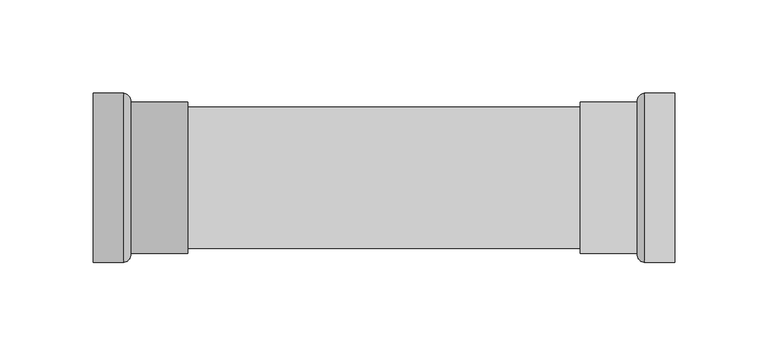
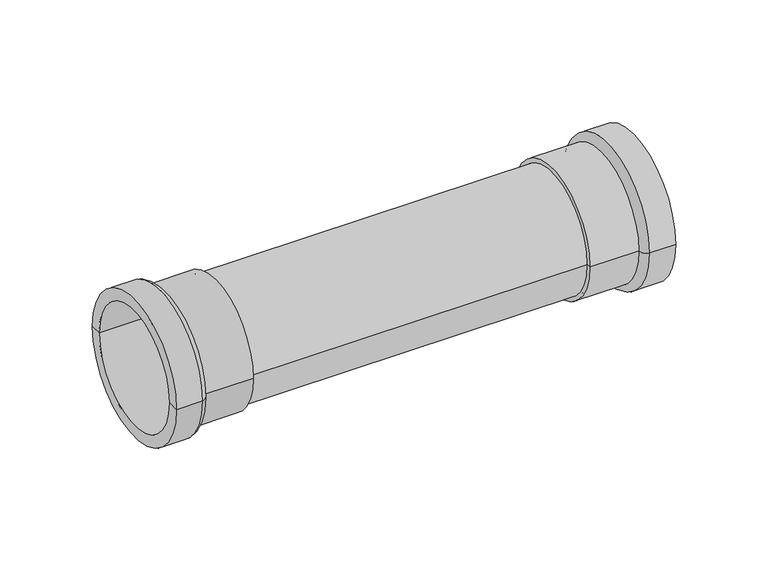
"""IFC4 building model written with IfcOpenShell, lengths in millimetres: pipe fitting geometry, VALTEC_VTi.903.I_Соединитель прямой нержавеющая сталь : VTi.903.I."""

from ifc_helpers import new_model, si_unit, point, frame, origin, origin_2d, place, context, project, spatial, polyline, circle_curve, ellipse_curve, trimmed, segment, composite_curve, outline, extrude, source, transform, mapped, element, save
from ifc_brep_helpers import plane_surface, cylinder_surface, revolved_surface, advanced_brep


def pipe_fitting_39a1b7c8(model_context):
    return source(origin(), model_context, "Body", "SolidModel", [
        advanced_brep(
        [(0.0, -38.05, 0.0), (0.0, 38.05, 0.0), (0.0, 45.5, 0.0), (0.0, -45.5, 0.0), (50.81, -38.05, 0.0), (50.81, 38.05, 0.0), (50.81, -40.75, 0.0), (50.81, 40.75, 0.0), (20.25, -40.75, 0.0), (20.25, 40.75, 0.0), (16.4, -45.5, 0.0), (16.4, 45.5, 0.0)],
        [
            (0, 1, circle_curve(frame((0.0, 0.0, 0.0), z_axis=(1.0, 0.0, 0.0), x_axis=(0.0, 1.0, 0.0)), 38.05)),
            (1, 2),
            (2, 3, circle_curve(frame((0.0, 0.0, 0.0), z_axis=(-1.0, 0.0, 0.0), x_axis=(0.0, 1.0, 0.0)), 45.5)),
            (3, 0),
            (1, 0, circle_curve(frame((0.0, 0.0, 0.0), z_axis=(1.0, 0.0, 0.0), x_axis=(0.0, 1.0, 0.0)), 38.05)),
            (3, 2, circle_curve(frame((0.0, 0.0, 0.0), z_axis=(-1.0, 0.0, 0.0), x_axis=(0.0, 1.0, 0.0)), 45.5)),
            (4, 5, circle_curve(frame((50.81, 0.0, 0.0), z_axis=(1.0, 0.0, 0.0), x_axis=(0.0, 1.0, 0.0)), 38.05)),
            (5, 1),
            (0, 4),
            (5, 4, circle_curve(frame((50.81, 0.0, 0.0), z_axis=(1.0, 0.0, 0.0), x_axis=(0.0, 1.0, 0.0)), 38.05)),
            (6, 7, circle_curve(frame((50.81, 0.0, 0.0), z_axis=(1.0, 0.0, 0.0), x_axis=(0.0, 1.0, 0.0)), 40.75)),
            (7, 5),
            (4, 6),
            (7, 6, circle_curve(frame((50.81, 0.0, 0.0), z_axis=(1.0, 0.0, 0.0), x_axis=(0.0, 1.0, 0.0)), 40.75)),
            (8, 9, circle_curve(frame((20.25, 0.0, 0.0), z_axis=(1.0, 0.0, 0.0), x_axis=(0.0, 1.0, 0.0)), 40.75)),
            (9, 7),
            (6, 8),
            (9, 8, circle_curve(frame((20.25, 0.0, 0.0), z_axis=(1.0, 0.0, 0.0), x_axis=(0.0, 1.0, 0.0)), 40.75)),
            (10, 11, circle_curve(frame((16.4, 0.0, 0.0), z_axis=(1.0, 0.0, 0.0), x_axis=(0.0, 1.0, 0.0)), 45.5)),
            (11, 9, circle_curve(frame((15.5334127, 40.862345, 0.0), z_axis=(0.0, 0.0, -1.0), x_axis=(1.0, 0.0, 0.0)), 4.7179251)),
            (8, 10, circle_curve(frame((15.5334127, -40.862345, 0.0), z_axis=(0.0, 0.0, -1.0), x_axis=(1.0, 0.0, 0.0)), 4.7179251)),
            (11, 10, circle_curve(frame((16.4, 0.0, 0.0), z_axis=(1.0, 0.0, 0.0), x_axis=(0.0, 1.0, 0.0)), 45.5)),
            (2, 11),
            (10, 3),
        ],
        [
            plane_surface(frame((0.0, 0.0, 0.0), z_axis=(-1.0, 0.0, 0.0), x_axis=(0.0, 1.0, 0.0))),
            revolved_surface(polyline([(0.0, 38.05, 0.0), (50.81, 38.05, 0.0)]), (29.8493608, 0.0, 0.0), (-1.0, 0.0, 0.0)),
            plane_surface(frame((50.81, 0.0, 0.0), z_axis=(1.0, 0.0, 0.0), x_axis=(0.0, 1.0, 0.0))),
            cylinder_surface(frame((29.8493608, 0.0, 0.0), z_axis=(-1.0, 0.0, 0.0), x_axis=(0.0, 1.0, 0.0)), 40.75),
            revolved_surface(trimmed(ellipse_curve(frame((15.5334127, 40.862345, 0.0), z_axis=(0.0, 0.0, 1.0), x_axis=(1.0, 0.0, 0.0)), 4.7179251, 4.7179251), [point((20.25, 40.75, 0.0))], [point((16.4, 45.5, 0.0))], True, "CARTESIAN"), (29.8493608, 0.0, 0.0), (-1.0, 0.0, 0.0)),
            cylinder_surface(frame((29.8493608, 0.0, 0.0), z_axis=(-1.0, 0.0, 0.0), x_axis=(0.0, 1.0, 0.0)), 45.5),
        ],
        [
            (0, [[1, 2, 3, 4]]),
            (0, [[5, -4, 6, -2]]),
            (1, [[7, 8, -1, 9]]),
            (1, [[10, -9, -5, -8]]),
            (2, [[11, 12, -7, 13]]),
            (2, [[14, -13, -10, -12]]),
            (3, [[15, 16, -11, 17]]),
            (3, [[18, -17, -14, -16]]),
            (4, [[19, 20, -15, 21]]),
            (4, [[22, -21, -18, -20]]),
            (5, [[-3, 23, -19, 24]]),
            (5, [[-6, -24, -22, -23]]),
        ],
    ),
        advanced_brep(
        [(312.0, 38.05, 0.0), (312.0, -38.05, 0.0), (312.0, -45.5, 0.0), (312.0, 45.5, 0.0), (261.19, 38.05, 0.0), (261.19, -38.05, 0.0), (261.19, 40.75, 0.0), (261.19, -40.75, 0.0), (291.75, 40.75, 0.0), (291.75, -40.75, 0.0), (295.6, 45.5, 0.0), (295.6, -45.5, 0.0)],
        [
            (0, 1, circle_curve(frame((312.0, 0.0, 0.0), z_axis=(-1.0, 0.0, 0.0), x_axis=(0.0, -1.0, 0.0)), 38.05)),
            (1, 2),
            (2, 3, circle_curve(frame((312.0, 0.0, 0.0), z_axis=(1.0, 0.0, 0.0), x_axis=(0.0, -1.0, 0.0)), 45.5)),
            (3, 0),
            (1, 0, circle_curve(frame((312.0, 0.0, 0.0), z_axis=(-1.0, 0.0, 0.0), x_axis=(0.0, -1.0, 0.0)), 38.05)),
            (3, 2, circle_curve(frame((312.0, 0.0, 0.0), z_axis=(1.0, 0.0, 0.0), x_axis=(0.0, -1.0, 0.0)), 45.5)),
            (4, 5, circle_curve(frame((261.19, 0.0, 0.0), z_axis=(-1.0, 0.0, 0.0), x_axis=(0.0, -1.0, 0.0)), 38.05)),
            (5, 1),
            (0, 4),
            (5, 4, circle_curve(frame((261.19, 0.0, 0.0), z_axis=(-1.0, 0.0, 0.0), x_axis=(0.0, -1.0, 0.0)), 38.05)),
            (6, 7, circle_curve(frame((261.19, 0.0, 0.0), z_axis=(-1.0, 0.0, 0.0), x_axis=(0.0, -1.0, 0.0)), 40.75)),
            (7, 5),
            (4, 6),
            (7, 6, circle_curve(frame((261.19, 0.0, 0.0), z_axis=(-1.0, 0.0, 0.0), x_axis=(0.0, -1.0, 0.0)), 40.75)),
            (8, 9, circle_curve(frame((291.75, 0.0, 0.0), z_axis=(-1.0, 0.0, 0.0), x_axis=(0.0, -1.0, 0.0)), 40.75)),
            (9, 7),
            (6, 8),
            (9, 8, circle_curve(frame((291.75, 0.0, 0.0), z_axis=(-1.0, 0.0, 0.0), x_axis=(0.0, -1.0, 0.0)), 40.75)),
            (10, 11, circle_curve(frame((295.6, 0.0, 0.0), z_axis=(-1.0, 0.0, 0.0), x_axis=(0.0, -1.0, 0.0)), 45.5)),
            (11, 9, circle_curve(frame((296.4665873, -40.862345, 0.0), z_axis=(0.0, 0.0, -1.0), x_axis=(-1.0, 0.0, 0.0)), 4.7179251)),
            (8, 10, circle_curve(frame((296.4665873, 40.862345, 0.0), z_axis=(0.0, 0.0, -1.0), x_axis=(-1.0, 0.0, 0.0)), 4.7179251)),
            (11, 10, circle_curve(frame((295.6, 0.0, 0.0), z_axis=(-1.0, 0.0, 0.0), x_axis=(0.0, -1.0, 0.0)), 45.5)),
            (2, 11),
            (10, 3),
        ],
        [
            plane_surface(frame((312.0, 0.0, 0.0), z_axis=(1.0, 0.0, 0.0), x_axis=(0.0, -1.0, 0.0))),
            revolved_surface(polyline([(312.0, -38.05, 0.0), (261.19, -38.05, 0.0)]), (282.1506392, 0.0, 0.0), (1.0, 0.0, 0.0)),
            plane_surface(frame((261.19, 0.0, 0.0), z_axis=(-1.0, 0.0, 0.0), x_axis=(0.0, -1.0, 0.0))),
            cylinder_surface(frame((282.1506392, 0.0, 0.0), z_axis=(1.0, 0.0, 0.0), x_axis=(0.0, -1.0, 0.0)), 40.75),
            revolved_surface(trimmed(ellipse_curve(frame((296.4665873, -40.862345, 0.0), z_axis=(0.0, 0.0, 1.0), x_axis=(-1.0, 0.0, 0.0)), 4.7179251, 4.7179251), [point((291.75, -40.75, 0.0))], [point((295.6, -45.5, 0.0))], True, "CARTESIAN"), (282.1506392, 0.0, 0.0), (1.0, 0.0, 0.0)),
            cylinder_surface(frame((282.1506392, 0.0, 0.0), z_axis=(1.0, 0.0, 0.0), x_axis=(0.0, -1.0, 0.0)), 45.5),
        ],
        [
            (0, [[1, 2, 3, 4]]),
            (0, [[5, -4, 6, -2]]),
            (1, [[7, 8, -1, 9]]),
            (1, [[10, -9, -5, -8]]),
            (2, [[11, 12, -7, 13]]),
            (2, [[14, -13, -10, -12]]),
            (3, [[15, 16, -11, 17]]),
            (3, [[18, -17, -14, -16]]),
            (4, [[19, 20, -15, 21]]),
            (4, [[22, -21, -18, -20]]),
            (5, [[-3, 23, -19, 24]]),
            (5, [[-6, -24, -22, -23]]),
        ],
    ),
        extrude(outline(composite_curve([segment(trimmed(circle_curve(origin_2d(), 38.05), [point((-38.05, 0.0))], [point((38.05, 0.0))], False, "CARTESIAN"), True, "CONTINUOUS"), segment(trimmed(circle_curve(origin_2d(), 38.05), [point((38.05, 0.0))], [point((-38.05, 0.0))], False, "CARTESIAN"), True, "CONTINUOUS")], self_intersect=False)), frame((46.8, 0.0, 0.0), z_axis=(1.0, 0.0, 0.0), x_axis=(0.0, 1.0, 0.0)), (0.0, 0.0, 1.0), 218.4),
    ])


if __name__ == "__main__":
    model = new_model("IFC4")
    model_context = context("Model", 3, world=origin())
    ifc_project = project(units=[si_unit("LENGTHUNIT", "METRE", prefix="MILLI")], contexts=[model_context])
    site = spatial("IfcSite", under=ifc_project)
    building = spatial("IfcBuilding", under=site)
    placement = place(None, origin())
    pipe_fitting_shape = pipe_fitting_39a1b7c8(model_context)
    element("IfcPipeFitting", 1, ObjectType="VALTEC_VTi.903.I_Соединитель прямой нержавеющая сталь : VTi.903.I", at=placement, inside=building, context=model_context, shape_type="MappedRepresentation", body=[
        mapped(pipe_fitting_shape, transform((0.0, 0.0, 0.0), x_axis=(1.0, 0.0, 0.0), y_axis=(0.0, 1.0, 0.0), z_axis=(0.0, 0.0, 1.0))),
    ])
    save(model, "model.ifc")
